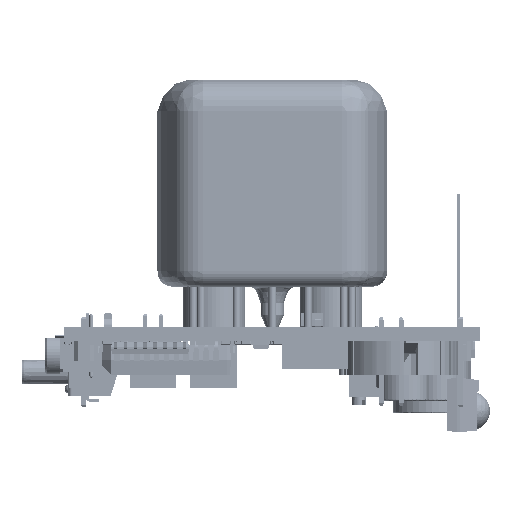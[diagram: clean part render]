
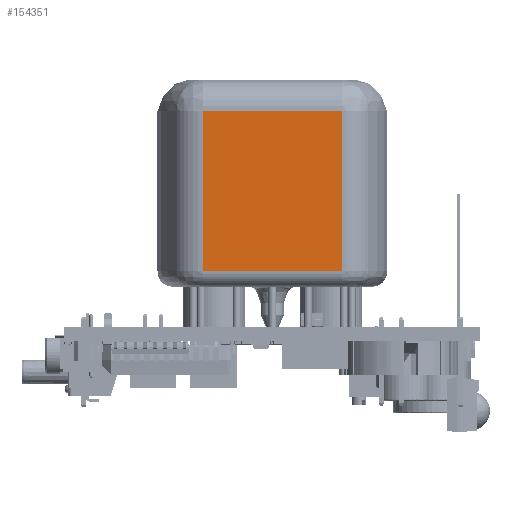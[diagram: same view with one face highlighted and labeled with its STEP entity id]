
A CAD part, left-side view. The second image highlights one B-rep face of the part: STEP entity #154351.
In plain terms, the highlighted planar face has unit normal (-1, 0, 0).
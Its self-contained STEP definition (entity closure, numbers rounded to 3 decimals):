
#154351 = ADVANCED_FACE('',(#154352),#154386,.T.);
#154352 = FACE_BOUND('',#154353,.T.);
#154353 = EDGE_LOOP('',(#154354,#154364,#154372,#154380));
#154354 = ORIENTED_EDGE('',*,*,#154355,.T.);
#154355 = EDGE_CURVE('',#154356,#154358,#154360,.T.);
#154356 = VERTEX_POINT('',#154357);
#154357 = CARTESIAN_POINT('',(-10.,8.92,2.));
#154358 = VERTEX_POINT('',#154359);
#154359 = CARTESIAN_POINT('',(-10.,-8.92,2.));
#154360 = LINE('',#154361,#154362);
#154361 = CARTESIAN_POINT('',(-10.,-10.843,2.));
#154362 = VECTOR('',#154363,1.);
#154363 = DIRECTION('',(0.,-1.,0.));
#154364 = ORIENTED_EDGE('',*,*,#154365,.T.);
#154365 = EDGE_CURVE('',#154358,#154366,#154368,.T.);
#154366 = VERTEX_POINT('',#154367);
#154367 = CARTESIAN_POINT('',(-10.,-8.92,22.5));
#154368 = LINE('',#154369,#154370);
#154369 = CARTESIAN_POINT('',(-10.,-8.92,0.));
#154370 = VECTOR('',#154371,1.);
#154371 = DIRECTION('',(0.,0.,1.));
#154372 = ORIENTED_EDGE('',*,*,#154373,.T.);
#154373 = EDGE_CURVE('',#154366,#154374,#154376,.T.);
#154374 = VERTEX_POINT('',#154375);
#154375 = CARTESIAN_POINT('',(-10.,8.92,22.5));
#154376 = LINE('',#154377,#154378);
#154377 = CARTESIAN_POINT('',(-10.,-10.843,22.5));
#154378 = VECTOR('',#154379,1.);
#154379 = DIRECTION('',(0.,1.,0.));
#154380 = ORIENTED_EDGE('',*,*,#154381,.T.);
#154381 = EDGE_CURVE('',#154374,#154356,#154382,.T.);
#154382 = LINE('',#154383,#154384);
#154383 = CARTESIAN_POINT('',(-10.,8.92,0.));
#154384 = VECTOR('',#154385,1.);
#154385 = DIRECTION('',(0.,0.,-1.));
#154386 = PLANE('',#154387);
#154387 = AXIS2_PLACEMENT_3D('',#154388,#154389,#154390);
#154388 = CARTESIAN_POINT('',(-10.,-10.843,0.));
#154389 = DIRECTION('',(-1.,0.,0.));
#154390 = DIRECTION('',(0.,0.,1.));
